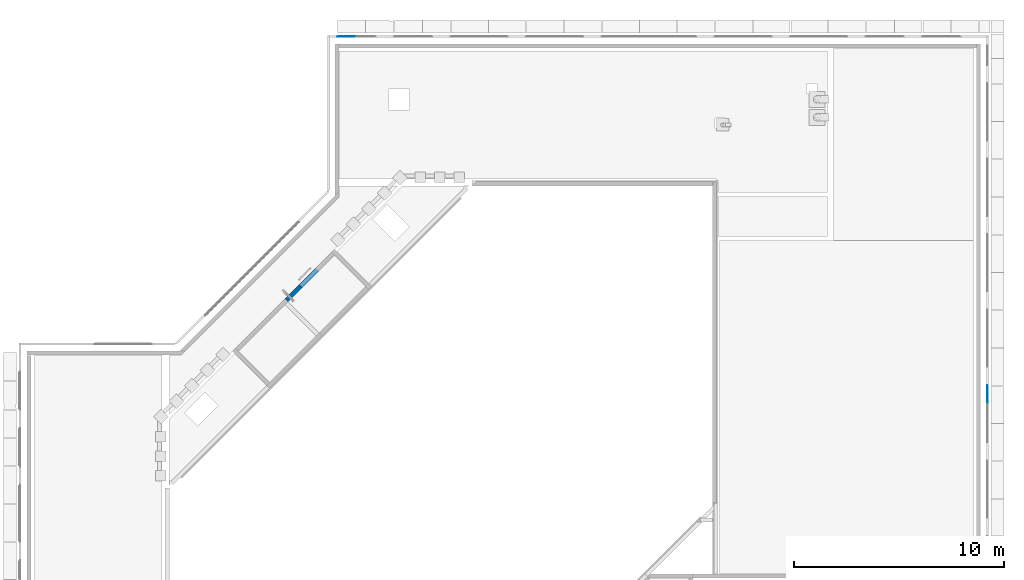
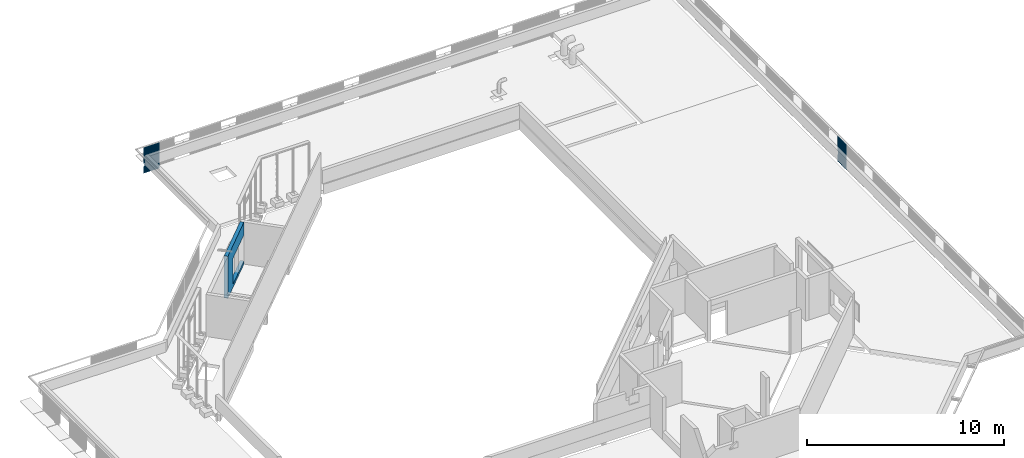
# One storey, part 29 of 37: 3 walls.
"""IFC4X3_ADD2 building model written with IfcOpenShell, lengths in millimetres."""

from ifc_helpers import new_model, si_unit, direction, frame, origin_with_axes, place, context, subcontext, project, spatial, polygons, element, save


model = new_model("IFC4X3_ADD2")

# Units and contexts
model_context = context("Model", 3, precision=1e-05, world=origin_with_axes(), true_north=direction((0.0, 1.0)))
body_context = subcontext(model_context, "Body", "Model", "MODEL_VIEW")
ifc_project = project(units=[si_unit("LENGTHUNIT", "METRE", prefix="MILLI"), si_unit("AREAUNIT", "SQUARE_METRE"), si_unit("VOLUMEUNIT", "CUBIC_METRE"), si_unit("PLANEANGLEUNIT", "RADIAN"), si_unit("TIMEUNIT", "SECOND"), si_unit("MASSUNIT", "GRAM")], contexts=[model_context])

# Site, building, storey
site_placement = place(None, origin_with_axes())
site = spatial("IfcSite", under=ifc_project, at=site_placement, Name="Site", CompositionType="ELEMENT")
building_placement = place(site_placement, origin_with_axes())
building = spatial("IfcBuilding", under=site, at=building_placement, Name="IFC Building Story")
storey_placement = place(building_placement, frame((0.0, 0.0, 14400.0), z_axis=(0.0, 0.0, 1.0), x_axis=(1.0, 0.0, 0.0)))
storey = spatial("IfcBuildingStorey", under=building, at=storey_placement, Name="040", Elevation=14400.0)

# Walls
wall_1_placement = place(storey_placement, frame((0.0, 0.0, -14400.0), z_axis=(0.0, 0.0, 1.0), x_axis=(1.0, 0.0, 0.0)))
element("IfcWall", 1, at=wall_1_placement, inside=storey, Name="Basic Wall:BB_XX_Wand uit beton, 200 mm", ObjectType="Basic Wall:BB_XX_Wand uit beton, 200 mm", PredefinedType="SOLIDWALL", context=body_context, shape_type="Tessellation", body=[
    polygons([(-30860.42803484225, 35435.40890911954, 16010.0), (-32408.99188564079, 33886.84505832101, 16010.0), (-32408.99188564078, 33886.84505832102, 14400.0), (-30860.42803484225, 35435.40890911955, 14400.0), (-30860.42803484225, 35435.40890911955, 14200.0), (-33080.74332776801, 33215.09361619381, 14200.0), (-33080.74332776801, 33215.09361619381, 16800.0), (-30860.42803484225, 35435.40890911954, 16800.0), (-30719.00667860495, 35293.98755288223, 16010.0), (-30719.00667860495, 35293.98755288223, 16800.0), (-32939.3219715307, 33073.6722599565, 16800.0), (-32939.3219715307, 33073.6722599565, 14200.0), (-30719.00667860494, 35293.98755288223, 14200.0), (-30719.00667860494, 35293.98755288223, 14400.0), (-32267.57052940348, 33745.42370208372, 14400.0), (-32267.57052940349, 33745.4237020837, 16010.0)], [[[3, 4, 5]], [[3, 5, 6]], [[6, 7, 2]], [[6, 2, 3]], [[7, 8, 1]], [[7, 1, 2]], [[16, 9, 10]], [[16, 10, 11]], [[11, 12, 15]], [[11, 15, 16]], [[12, 13, 14]], [[12, 14, 15]], [[1, 8, 10, 9]], [[7, 6, 12, 11]], [[8, 7, 11, 10]], [[2, 1, 9, 16]], [[3, 2, 16, 15]], [[6, 5, 13, 12]], [[4, 3, 15, 14]], [[5, 4, 14, 13]]]),
])
wall_2_placement = place(storey_placement, frame((0.0, 0.0, -14400.0), z_axis=(0.0, 0.0, 1.0), x_axis=(1.0, 0.0, 0.0)))
element("IfcWall", 2, at=wall_2_placement, inside=storey, Name="BB_07.10_Gevelbekleding_PuntProfiel, 900 mm, console rechts_GMO:900 x 1600 mm", ObjectType="BB_07.10_Gevelbekleding_PuntProfiel, 900 mm, console rechts_GMO:900 x 1600 mm", PredefinedType="NOTDEFINED", context=body_context, shape_type="Tessellation", body=[
    polygons([(435.0000000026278, 29020.00000000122, 14060.0), (433.5857864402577, 29020.00000000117, 14060.0), (448.5857864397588, 29035.0000000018, 14060.0), (415.0000000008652, 29068.58578643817, 14060.0), (415.0000000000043, 29091.41421356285, 14060.0), (416.000000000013, 29091.00000000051, 14060.0), (416.0000000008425, 29069.00000000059, 14060.0), (450.0000000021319, 29035.00000000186, 14060.0), (435.0000000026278, 29020.00000000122, 13860.0), (433.5857864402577, 29020.00000000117, 13860.0), (450.0000000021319, 29035.00000000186, 13860.0), (416.0000000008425, 29069.00000000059, 13860.0), (416.0000000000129, 29091.00000000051, 13860.0), (415.0000000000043, 29091.41421356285, 13860.0), (415.0000000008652, 29068.58578643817, 13860.0), (448.5857864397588, 29035.0000000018, 13860.0), (416.0000000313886, 28259.00000000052, 15040.0), (416.000000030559, 28281.00000000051, 15040.0), (450.000000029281, 28315.00000000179, 15040.0), (416.0000000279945, 28349.00000000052, 15040.0), (416.0000000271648, 28371.00000000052, 15040.0), (450.0000000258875, 28405.0000000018, 15040.0), (416.0000000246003, 28439.00000000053, 15040.0), (416.0000000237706, 28461.00000000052, 15040.0), (450.0000000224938, 28495.00000000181, 15040.0), (416.0000000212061, 28529.00000000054, 15040.0), (416.0000000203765, 28551.00000000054, 15040.0), (450.0000000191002, 28585.00000000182, 15040.0), (416.0000000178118, 28619.00000000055, 15040.0), (416.0000000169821, 28641.00000000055, 15040.0), (450.0000000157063, 28675.00000000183, 15040.0), (416.0000000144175, 28709.00000000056, 15040.0), (416.0000000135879, 28731.00000000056, 15040.0), (450.0000000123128, 28765.00000000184, 15040.0), (416.0000000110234, 28799.00000000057, 15040.0), (416.0000000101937, 28821.00000000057, 15040.0), (450.0000000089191, 28855.00000000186, 15040.0), (416.0000000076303, 28889.00000000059, 15040.0), (416.0000000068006, 28911.00000000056, 15040.0), (450.0000000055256, 28945.00000000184, 15040.0), (416.0000000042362, 28979.00000000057, 15040.0), (416.0000000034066, 29001.00000000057, 15040.0), (450.000000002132, 29035.00000000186, 15040.0), (416.0000000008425, 29069.00000000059, 15040.0), (416.000000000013, 29091.00000000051, 15040.0), (415.0000000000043, 29091.41421356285, 15040.0), (415.0000000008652, 29068.58578643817, 15040.0), (448.5857864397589, 29035.0000000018, 15040.0), (415.0000000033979, 29001.41421356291, 15040.0), (415.0000000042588, 28978.58578643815, 15040.0), (448.5857864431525, 28945.00000000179, 15040.0), (415.0000000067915, 28911.4142135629, 15040.0), (415.0000000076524, 28888.58578643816, 15040.0), (448.5857864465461, 28855.0000000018, 15040.0), (415.0000000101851, 28821.41421356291, 15040.0), (415.000000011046, 28798.58578643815, 15040.0), (448.5857864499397, 28765.00000000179, 15040.0), (415.0000000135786, 28731.41421356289, 15040.0), (415.0000000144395, 28708.58578643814, 15040.0), (448.5857864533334, 28675.00000000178, 15040.0), (415.0000000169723, 28641.41421356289, 15040.0), (415.0000000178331, 28618.58578643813, 15040.0), (448.5857864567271, 28585.00000000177, 15040.0), (415.000000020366, 28551.41421356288, 15040.0), (415.0000000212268, 28528.58578643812, 15040.0), (448.5857864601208, 28495.00000000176, 15040.0), (415.0000000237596, 28461.41421356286, 15040.0), (415.0000000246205, 28438.58578643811, 15040.0), (448.5857864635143, 28405.00000000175, 15040.0), (415.0000000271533, 28371.41421356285, 15040.0), (415.000000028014, 28348.5857864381, 15040.0), (448.585786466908, 28315.00000000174, 15040.0), (415.0000000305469, 28281.41421356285, 15040.0), (415.0000000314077, 28258.5857864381, 15040.0), (448.5857864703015, 28225.00000000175, 15040.0), (415.0000000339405, 28191.41421356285, 15040.0), (415.0000000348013, 28168.5857864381, 15040.0), (416.0000000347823, 28169.00000000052, 15040.0), (416.0000000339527, 28191.00000000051, 15040.0), (450.0000000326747, 28225.00000000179, 15040.0), (416.0000000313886, 28259.00000000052, 13440.0), (450.0000000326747, 28225.00000000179, 13440.0), (416.0000000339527, 28191.00000000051, 13440.0), (416.0000000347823, 28169.00000000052, 13440.0), (415.0000000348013, 28168.5857864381, 13440.0), (415.0000000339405, 28191.41421356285, 13440.0), (448.5857864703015, 28225.00000000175, 13440.0), (415.0000000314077, 28258.5857864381, 13440.0), (415.0000000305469, 28281.41421356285, 13440.0), (448.585786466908, 28315.00000000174, 13440.0), (415.000000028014, 28348.5857864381, 13440.0), (415.0000000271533, 28371.41421356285, 13440.0), (448.5857864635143, 28405.00000000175, 13440.0), (415.0000000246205, 28438.58578643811, 13440.0), (415.0000000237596, 28461.41421356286, 13440.0), (448.5857864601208, 28495.00000000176, 13440.0), (415.0000000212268, 28528.58578643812, 13440.0), (415.000000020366, 28551.41421356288, 13440.0), (448.5857864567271, 28585.00000000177, 13440.0), (415.0000000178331, 28618.58578643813, 13440.0), (415.0000000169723, 28641.41421356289, 13440.0), (448.5857864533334, 28675.00000000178, 13440.0), (415.0000000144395, 28708.58578643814, 13440.0), (415.0000000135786, 28731.41421356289, 13440.0), (448.5857864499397, 28765.00000000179, 13440.0), (415.000000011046, 28798.58578643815, 13440.0), (415.0000000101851, 28821.41421356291, 13440.0), (448.5857864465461, 28855.0000000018, 13440.0), (415.0000000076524, 28888.58578643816, 13440.0), (415.0000000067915, 28911.4142135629, 13440.0), (448.5857864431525, 28945.00000000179, 13440.0), (415.0000000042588, 28978.58578643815, 13440.0), (415.0000000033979, 29001.41421356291, 13440.0), (448.5857864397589, 29035.0000000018, 13440.0), (415.0000000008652, 29068.58578643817, 13440.0), (415.0000000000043, 29091.41421356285, 13440.0), (416.000000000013, 29091.00000000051, 13440.0), (416.0000000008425, 29069.00000000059, 13440.0), (450.000000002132, 29035.00000000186, 13440.0), (416.0000000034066, 29001.00000000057, 13440.0), (416.0000000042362, 28979.00000000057, 13440.0), (450.0000000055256, 28945.00000000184, 13440.0), (416.0000000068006, 28911.00000000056, 13440.0), (416.0000000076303, 28889.00000000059, 13440.0), (450.0000000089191, 28855.00000000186, 13440.0), (416.0000000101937, 28821.00000000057, 13440.0), (416.0000000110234, 28799.00000000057, 13440.0), (450.0000000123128, 28765.00000000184, 13440.0), (416.0000000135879, 28731.00000000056, 13440.0), (416.0000000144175, 28709.00000000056, 13440.0), (450.0000000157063, 28675.00000000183, 13440.0), (416.0000000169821, 28641.00000000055, 13440.0), (416.0000000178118, 28619.00000000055, 13440.0), (450.0000000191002, 28585.00000000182, 13440.0), (416.0000000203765, 28551.00000000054, 13440.0), (416.0000000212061, 28529.00000000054, 13440.0), (450.0000000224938, 28495.00000000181, 13440.0), (416.0000000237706, 28461.00000000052, 13440.0), (416.0000000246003, 28439.00000000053, 13440.0), (450.0000000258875, 28405.0000000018, 13440.0), (416.0000000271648, 28371.00000000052, 13440.0), (416.0000000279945, 28349.00000000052, 13440.0), (450.000000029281, 28315.00000000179, 13440.0), (416.000000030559, 28281.00000000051, 13440.0)], [[[7, 8, 3]], [[7, 3, 4]], [[4, 5, 6]], [[4, 6, 7]], [[8, 1, 2]], [[8, 2, 3]], [[2, 1, 9, 10]], [[12, 13, 14]], [[12, 14, 15]], [[16, 10, 9]], [[16, 9, 11]], [[11, 12, 15]], [[11, 15, 16]], [[44, 45, 46]], [[44, 46, 47]], [[48, 49, 42]], [[48, 42, 43]], [[43, 44, 47]], [[43, 47, 48]], [[49, 50, 41]], [[49, 41, 42]], [[51, 52, 39]], [[51, 39, 40]], [[40, 41, 50]], [[40, 50, 51]], [[52, 53, 38]], [[52, 38, 39]], [[54, 55, 36]], [[54, 36, 37]], [[37, 38, 53]], [[37, 53, 54]], [[55, 56, 35]], [[55, 35, 36]], [[57, 58, 33]], [[57, 33, 34]], [[34, 35, 56]], [[34, 56, 57]], [[58, 59, 32]], [[58, 32, 33]], [[60, 61, 30]], [[60, 30, 31]], [[31, 32, 59]], [[31, 59, 60]], [[61, 62, 29]], [[61, 29, 30]], [[63, 64, 27]], [[63, 27, 28]], [[28, 29, 62]], [[28, 62, 63]], [[64, 65, 26]], [[64, 26, 27]], [[66, 67, 24]], [[66, 24, 25]], [[25, 26, 65]], [[25, 65, 66]], [[67, 68, 23]], [[67, 23, 24]], [[69, 70, 21]], [[69, 21, 22]], [[22, 23, 68]], [[22, 68, 69]], [[70, 71, 20]], [[70, 20, 21]], [[72, 73, 18]], [[72, 18, 19]], [[19, 20, 71]], [[19, 71, 72]], [[73, 74, 17]], [[73, 17, 18]], [[79, 80, 75]], [[79, 75, 76]], [[76, 77, 78]], [[76, 78, 79]], [[80, 17, 74]], [[80, 74, 75]], [[83, 84, 85]], [[83, 85, 86]], [[87, 88, 81]], [[87, 81, 82]], [[82, 83, 86]], [[82, 86, 87]], [[118, 119, 114]], [[118, 114, 115]], [[115, 116, 117]], [[115, 117, 118]], [[121, 122, 111]], [[121, 111, 112]], [[112, 113, 120]], [[112, 120, 121]], [[113, 114, 119]], [[113, 119, 120]], [[124, 125, 108]], [[124, 108, 109]], [[109, 110, 123]], [[109, 123, 124]], [[110, 111, 122]], [[110, 122, 123]], [[127, 128, 105]], [[127, 105, 106]], [[106, 107, 126]], [[106, 126, 127]], [[107, 108, 125]], [[107, 125, 126]], [[130, 131, 102]], [[130, 102, 103]], [[103, 104, 129]], [[103, 129, 130]], [[104, 105, 128]], [[104, 128, 129]], [[133, 134, 99]], [[133, 99, 100]], [[100, 101, 132]], [[100, 132, 133]], [[101, 102, 131]], [[101, 131, 132]], [[136, 137, 96]], [[136, 96, 97]], [[97, 98, 135]], [[97, 135, 136]], [[98, 99, 134]], [[98, 134, 135]], [[139, 140, 93]], [[139, 93, 94]], [[94, 95, 138]], [[94, 138, 139]], [[95, 96, 137]], [[95, 137, 138]], [[142, 143, 90]], [[142, 90, 91]], [[91, 92, 141]], [[91, 141, 142]], [[92, 93, 140]], [[92, 140, 141]], [[144, 81, 88]], [[144, 88, 89]], [[89, 90, 143]], [[89, 143, 144]], [[18, 17, 81, 144]], [[19, 18, 144, 143]], [[20, 19, 143, 142]], [[21, 20, 142, 141]], [[22, 21, 141, 140]], [[23, 22, 140, 139]], [[24, 23, 139, 138]], [[25, 24, 138, 137]], [[26, 25, 137, 136]], [[27, 26, 136, 135]], [[28, 27, 135, 134]], [[29, 28, 134, 133]], [[30, 29, 133, 132]], [[31, 30, 132, 131]], [[32, 31, 131, 130]], [[33, 32, 130, 129]], [[34, 33, 129, 128]], [[35, 34, 128, 127]], [[36, 35, 127, 126]], [[37, 36, 126, 125]], [[38, 37, 125, 124]], [[54, 53, 109, 108]], [[55, 54, 108, 107]], [[56, 55, 107, 106]], [[57, 56, 106, 105]], [[58, 57, 105, 104]], [[59, 58, 104, 103]], [[60, 59, 103, 102]], [[61, 60, 102, 101]], [[62, 61, 101, 100]], [[63, 62, 100, 99]], [[64, 63, 99, 98]], [[65, 64, 98, 97]], [[66, 65, 97, 96]], [[67, 66, 96, 95]], [[68, 67, 95, 94]], [[69, 68, 94, 93]], [[70, 69, 93, 92]], [[71, 70, 92, 91]], [[72, 71, 91, 90]], [[73, 72, 90, 89]], [[74, 73, 89, 88]], [[80, 79, 83, 82]], [[17, 80, 82, 81]], [[39, 38, 124, 123]], [[40, 39, 123, 122]], [[41, 40, 122, 121]], [[42, 41, 121, 120]], [[1, 8, 43]], [[1, 43, 42]], [[42, 9, 1]], [[42, 120, 9]], [[120, 119, 11]], [[120, 11, 9]], [[44, 43, 8, 7]], [[45, 44, 7, 6]], [[47, 46, 5, 4]], [[48, 47, 4, 3]], [[10, 16, 114]], [[10, 114, 113]], [[113, 2, 10]], [[2, 113, 49]], [[49, 48, 2]], [[48, 3, 2]], [[50, 49, 113, 112]], [[51, 50, 112, 111]], [[52, 51, 111, 110]], [[53, 52, 110, 109]], [[75, 74, 88, 87]], [[76, 75, 87, 86]], [[46, 45, 6, 5]], [[77, 76, 86, 85]], [[78, 77, 85, 84]], [[79, 78, 84, 83]], [[117, 116, 14, 13]], [[115, 114, 16, 15]], [[116, 115, 15, 14]], [[118, 117, 13, 12]], [[119, 118, 12, 11]]]),
])
wall_3_placement = place(storey_placement, frame((0.0, 0.0, -14400.0), z_axis=(0.0, 0.0, 1.0), x_axis=(1.0, 0.0, 0.0)))
element("IfcWall", 3, at=wall_3_placement, inside=storey, Name="BB_07.10_Gevelbekleding_PuntProfiel, 900 mm, console rechts_GMO:900 x 1600 mm", ObjectType="BB_07.10_Gevelbekleding_PuntProfiel, 900 mm, console rechts_GMO:900 x 1600 mm", PredefinedType="NOTDEFINED", context=body_context, shape_type="Tessellation", body=[
    polygons([(-30504.99999999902, 45734.99999999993, 14060.0), (-30504.99999999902, 45733.58578643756, 14060.0), (-30519.99999999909, 45748.58578643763, 14060.0), (-30553.58578643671, 45715.0, 14060.0), (-30576.41421356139, 45715.0, 14060.0), (-30575.99999999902, 45716.0, 14060.0), (-30553.99999999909, 45716.0, 14060.0), (-30519.99999999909, 45750.0, 14060.0), (-30504.99999999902, 45734.99999999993, 13860.0), (-30504.99999999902, 45733.58578643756, 13860.0), (-30519.99999999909, 45750.0, 13860.0), (-30553.99999999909, 45716.0, 13860.0), (-30575.99999999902, 45716.0, 13860.0), (-30576.41421356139, 45715.0, 13860.0), (-30553.58578643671, 45715.0, 13860.0), (-30519.99999999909, 45748.58578643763, 13860.0), (-29743.99999999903, 45716.0, 15040.0), (-29765.99999999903, 45716.0, 15040.0), (-29799.99999999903, 45750.0, 15040.0), (-29833.99999999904, 45716.0, 15040.0), (-29855.99999999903, 45716.0, 15040.0), (-29889.99999999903, 45750.0, 15040.0), (-29923.99999999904, 45716.0, 15040.0), (-29945.99999999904, 45716.0, 15040.0), (-29979.99999999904, 45750.00000000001, 15040.0), (-30013.99999999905, 45716.0, 15040.0), (-30035.99999999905, 45716.0, 15040.0), (-30069.99999999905, 45750.00000000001, 15040.0), (-30103.99999999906, 45716.0, 15040.0), (-30125.99999999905, 45716.0, 15040.0), (-30159.99999999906, 45750.00000000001, 15040.0), (-30193.99999999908, 45716.0, 15040.0), (-30215.99999999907, 45716.0, 15040.0), (-30249.99999999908, 45750.00000000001, 15040.0), (-30283.99999999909, 45716.0, 15040.0), (-30305.99999999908, 45716.0, 15040.0), (-30339.99999999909, 45750.00000000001, 15040.0), (-30373.9999999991, 45716.0, 15040.0), (-30395.99999999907, 45716.0, 15040.0), (-30429.99999999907, 45750.00000000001, 15040.0), (-30463.99999999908, 45716.0, 15040.0), (-30485.99999999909, 45716.0, 15040.0), (-30519.99999999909, 45750.00000000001, 15040.0), (-30553.99999999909, 45716.0, 15040.0), (-30575.99999999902, 45716.0, 15040.0), (-30576.41421356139, 45715.0, 15040.0), (-30553.58578643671, 45715.0, 15040.0), (-30519.99999999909, 45748.58578643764, 15040.0), (-30486.41421356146, 45715.0, 15040.0), (-30463.5857864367, 45715.0, 15040.0), (-30429.99999999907, 45748.58578643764, 15040.0), (-30396.41421356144, 45715.0, 15040.0), (-30373.58578643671, 45715.0, 15040.0), (-30339.99999999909, 45748.58578643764, 15040.0), (-30306.41421356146, 45715.0, 15040.0), (-30283.5857864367, 45715.0, 15040.0), (-30249.99999999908, 45748.58578643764, 15040.0), (-30216.41421356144, 45715.0, 15040.0), (-30193.58578643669, 45715.0, 15040.0), (-30159.99999999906, 45748.58578643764, 15040.0), (-30126.41421356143, 45715.0, 15040.0), (-30103.58578643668, 45715.0, 15040.0), (-30069.99999999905, 45748.58578643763, 15040.0), (-30036.41421356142, 45715.0, 15040.0), (-30013.58578643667, 45715.0, 15040.0), (-29979.99999999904, 45748.58578643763, 15040.0), (-29946.41421356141, 45715.0, 15040.0), (-29923.58578643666, 45715.0, 15040.0), (-29889.99999999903, 45748.58578643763, 15040.0), (-29856.41421356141, 45715.0, 15040.0), (-29833.58578643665, 45715.0, 15040.0), (-29799.99999999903, 45748.58578643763, 15040.0), (-29766.41421356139, 45715.0, 15040.0), (-29743.58578643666, 45715.0, 15040.0), (-29709.99999999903, 45748.58578643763, 15040.0), (-29676.4142135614, 45715.0, 15040.0), (-29653.58578643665, 45715.0, 15040.0), (-29653.99999999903, 45716.0, 15040.0), (-29675.99999999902, 45716.0, 15040.0), (-29709.99999999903, 45750.0, 15040.0), (-29743.99999999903, 45716.0, 13440.0), (-29709.99999999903, 45750.0, 13440.0), (-29675.99999999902, 45716.0, 13440.0), (-29653.99999999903, 45716.0, 13440.0), (-29653.58578643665, 45715.0, 13440.0), (-29676.4142135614, 45715.0, 13440.0), (-29709.99999999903, 45748.58578643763, 13440.0), (-29743.58578643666, 45715.0, 13440.0), (-29766.41421356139, 45715.0, 13440.0), (-29799.99999999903, 45748.58578643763, 13440.0), (-29833.58578643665, 45715.0, 13440.0), (-29856.41421356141, 45715.0, 13440.0), (-29889.99999999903, 45748.58578643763, 13440.0), (-29923.58578643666, 45715.0, 13440.0), (-29946.41421356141, 45715.0, 13440.0), (-29979.99999999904, 45748.58578643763, 13440.0), (-30013.58578643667, 45715.0, 13440.0), (-30036.41421356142, 45715.0, 13440.0), (-30069.99999999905, 45748.58578643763, 13440.0), (-30103.58578643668, 45715.0, 13440.0), (-30126.41421356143, 45715.0, 13440.0), (-30159.99999999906, 45748.58578643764, 13440.0), (-30193.58578643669, 45715.0, 13440.0), (-30216.41421356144, 45715.0, 13440.0), (-30249.99999999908, 45748.58578643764, 13440.0), (-30283.5857864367, 45715.0, 13440.0), (-30306.41421356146, 45715.0, 13440.0), (-30339.99999999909, 45748.58578643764, 13440.0), (-30373.58578643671, 45715.0, 13440.0), (-30396.41421356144, 45715.0, 13440.0), (-30429.99999999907, 45748.58578643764, 13440.0), (-30463.5857864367, 45715.0, 13440.0), (-30486.41421356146, 45715.0, 13440.0), (-30519.99999999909, 45748.58578643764, 13440.0), (-30553.58578643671, 45715.0, 13440.0), (-30576.41421356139, 45715.0, 13440.0), (-30575.99999999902, 45716.0, 13440.0), (-30553.99999999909, 45716.0, 13440.0), (-30519.99999999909, 45750.00000000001, 13440.0), (-30485.99999999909, 45716.0, 13440.0), (-30463.99999999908, 45716.0, 13440.0), (-30429.99999999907, 45750.00000000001, 13440.0), (-30395.99999999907, 45716.0, 13440.0), (-30373.9999999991, 45716.0, 13440.0), (-30339.99999999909, 45750.00000000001, 13440.0), (-30305.99999999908, 45716.0, 13440.0), (-30283.99999999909, 45716.0, 13440.0), (-30249.99999999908, 45750.00000000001, 13440.0), (-30215.99999999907, 45716.0, 13440.0), (-30193.99999999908, 45716.0, 13440.0), (-30159.99999999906, 45750.00000000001, 13440.0), (-30125.99999999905, 45716.0, 13440.0), (-30103.99999999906, 45716.0, 13440.0), (-30069.99999999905, 45750.00000000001, 13440.0), (-30035.99999999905, 45716.0, 13440.0), (-30013.99999999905, 45716.0, 13440.0), (-29979.99999999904, 45750.00000000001, 13440.0), (-29945.99999999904, 45716.0, 13440.0), (-29923.99999999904, 45716.0, 13440.0), (-29889.99999999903, 45750.0, 13440.0), (-29855.99999999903, 45716.0, 13440.0), (-29833.99999999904, 45716.0, 13440.0), (-29799.99999999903, 45750.0, 13440.0), (-29765.99999999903, 45716.0, 13440.0)], [[[7, 8, 3]], [[7, 3, 4]], [[4, 5, 6]], [[4, 6, 7]], [[8, 1, 2]], [[8, 2, 3]], [[2, 1, 9, 10]], [[12, 13, 14]], [[12, 14, 15]], [[16, 10, 9]], [[16, 9, 11]], [[11, 12, 15]], [[11, 15, 16]], [[44, 45, 46]], [[44, 46, 47]], [[48, 49, 42]], [[48, 42, 43]], [[43, 44, 47]], [[43, 47, 48]], [[49, 50, 41]], [[49, 41, 42]], [[51, 52, 39]], [[51, 39, 40]], [[40, 41, 50]], [[40, 50, 51]], [[52, 53, 38]], [[52, 38, 39]], [[54, 55, 36]], [[54, 36, 37]], [[37, 38, 53]], [[37, 53, 54]], [[55, 56, 35]], [[55, 35, 36]], [[57, 58, 33]], [[57, 33, 34]], [[34, 35, 56]], [[34, 56, 57]], [[58, 59, 32]], [[58, 32, 33]], [[60, 61, 30]], [[60, 30, 31]], [[31, 32, 59]], [[31, 59, 60]], [[61, 62, 29]], [[61, 29, 30]], [[63, 64, 27]], [[63, 27, 28]], [[28, 29, 62]], [[28, 62, 63]], [[64, 65, 26]], [[64, 26, 27]], [[66, 67, 24]], [[66, 24, 25]], [[25, 26, 65]], [[25, 65, 66]], [[67, 68, 23]], [[67, 23, 24]], [[69, 70, 21]], [[69, 21, 22]], [[22, 23, 68]], [[22, 68, 69]], [[70, 71, 20]], [[70, 20, 21]], [[72, 73, 18]], [[72, 18, 19]], [[19, 20, 71]], [[19, 71, 72]], [[73, 74, 17]], [[73, 17, 18]], [[79, 80, 75]], [[79, 75, 76]], [[76, 77, 78]], [[76, 78, 79]], [[80, 17, 74]], [[80, 74, 75]], [[83, 84, 85]], [[83, 85, 86]], [[87, 88, 81]], [[87, 81, 82]], [[82, 83, 86]], [[82, 86, 87]], [[118, 119, 114]], [[118, 114, 115]], [[115, 116, 117]], [[115, 117, 118]], [[121, 122, 111]], [[121, 111, 112]], [[112, 113, 120]], [[112, 120, 121]], [[113, 114, 119]], [[113, 119, 120]], [[124, 125, 108]], [[124, 108, 109]], [[109, 110, 123]], [[109, 123, 124]], [[110, 111, 122]], [[110, 122, 123]], [[127, 128, 105]], [[127, 105, 106]], [[106, 107, 126]], [[106, 126, 127]], [[107, 108, 125]], [[107, 125, 126]], [[130, 131, 102]], [[130, 102, 103]], [[103, 104, 129]], [[103, 129, 130]], [[104, 105, 128]], [[104, 128, 129]], [[133, 134, 99]], [[133, 99, 100]], [[100, 101, 132]], [[100, 132, 133]], [[101, 102, 131]], [[101, 131, 132]], [[136, 137, 96]], [[136, 96, 97]], [[97, 98, 135]], [[97, 135, 136]], [[98, 99, 134]], [[98, 134, 135]], [[139, 140, 93]], [[139, 93, 94]], [[94, 95, 138]], [[94, 138, 139]], [[95, 96, 137]], [[95, 137, 138]], [[142, 143, 90]], [[142, 90, 91]], [[91, 92, 141]], [[91, 141, 142]], [[92, 93, 140]], [[92, 140, 141]], [[144, 81, 88]], [[144, 88, 89]], [[89, 90, 143]], [[89, 143, 144]], [[18, 17, 81, 144]], [[19, 18, 144, 143]], [[20, 19, 143, 142]], [[21, 20, 142, 141]], [[22, 21, 141, 140]], [[23, 22, 140, 139]], [[24, 23, 139, 138]], [[25, 24, 138, 137]], [[26, 25, 137, 136]], [[27, 26, 136, 135]], [[28, 27, 135, 134]], [[29, 28, 134, 133]], [[30, 29, 133, 132]], [[31, 30, 132, 131]], [[32, 31, 131, 130]], [[33, 32, 130, 129]], [[34, 33, 129, 128]], [[35, 34, 128, 127]], [[36, 35, 127, 126]], [[37, 36, 126, 125]], [[38, 37, 125, 124]], [[54, 53, 109, 108]], [[55, 54, 108, 107]], [[56, 55, 107, 106]], [[57, 56, 106, 105]], [[58, 57, 105, 104]], [[59, 58, 104, 103]], [[60, 59, 103, 102]], [[61, 60, 102, 101]], [[62, 61, 101, 100]], [[63, 62, 100, 99]], [[64, 63, 99, 98]], [[65, 64, 98, 97]], [[66, 65, 97, 96]], [[67, 66, 96, 95]], [[68, 67, 95, 94]], [[69, 68, 94, 93]], [[70, 69, 93, 92]], [[71, 70, 92, 91]], [[72, 71, 91, 90]], [[73, 72, 90, 89]], [[74, 73, 89, 88]], [[80, 79, 83, 82]], [[17, 80, 82, 81]], [[39, 38, 124, 123]], [[40, 39, 123, 122]], [[41, 40, 122, 121]], [[42, 41, 121, 120]], [[1, 8, 43]], [[1, 43, 42]], [[42, 9, 1]], [[42, 120, 9]], [[120, 119, 11]], [[120, 11, 9]], [[44, 43, 8, 7]], [[45, 44, 7, 6]], [[47, 46, 5, 4]], [[48, 47, 4, 3]], [[10, 16, 114]], [[10, 114, 113]], [[113, 2, 10]], [[2, 113, 49]], [[49, 48, 2]], [[48, 3, 2]], [[50, 49, 113, 112]], [[51, 50, 112, 111]], [[52, 51, 111, 110]], [[53, 52, 110, 109]], [[75, 74, 88, 87]], [[76, 75, 87, 86]], [[46, 45, 6, 5]], [[77, 76, 86, 85]], [[78, 77, 85, 84]], [[79, 78, 84, 83]], [[117, 116, 14, 13]], [[115, 114, 16, 15]], [[116, 115, 15, 14]], [[118, 117, 13, 12]], [[119, 118, 12, 11]]]),
])

save(model, "model.ifc")
